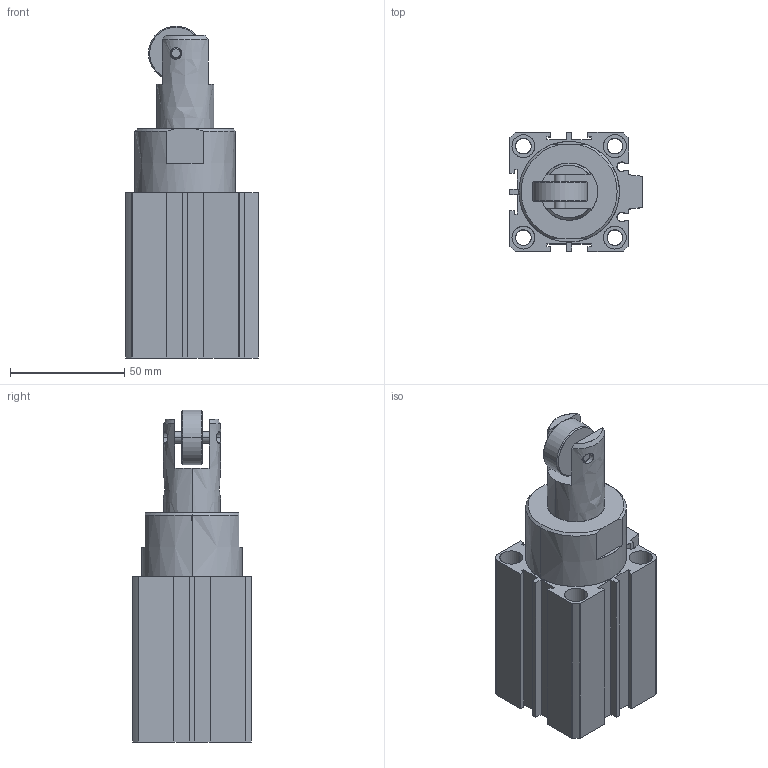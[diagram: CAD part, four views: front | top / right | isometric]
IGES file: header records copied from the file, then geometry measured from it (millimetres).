
Start section: SolidWorks IGES file using analytic representation for surfaces
Global section: file name: C:\Documents and Settings\admin\Bureau\stage de yaya\Plan Philippe Pince\PINCE\VUSB\pièces en 3D\VUSB STEP\ELOC-3DWG\ELOC-40-20 TIGE SORTIE.IGS; native system: SolidWorks 2007; preprocessor: SolidWorks 2007; author: admin; date: 080328.090243; units: millimetre
Bounding box: 58 x 52 x 145.2 mm (x, y, z)
Surface area: 53549.6 mm2 (no closed solid volume)
Topology: 0 solids, 0 shells, 848 faces, 10538 edges, 10576 vertices
Faces by surface type: bspline 775, revolution 73
